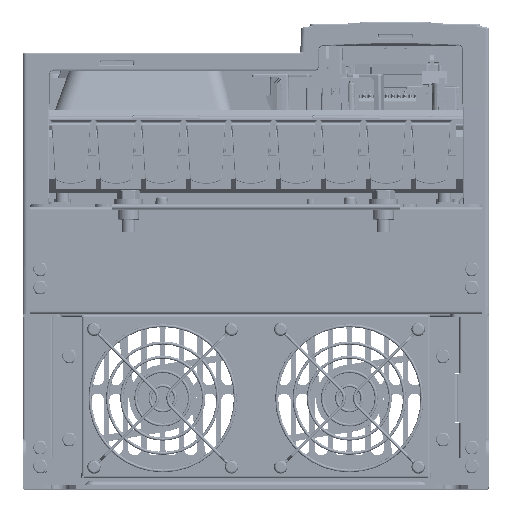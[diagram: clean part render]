
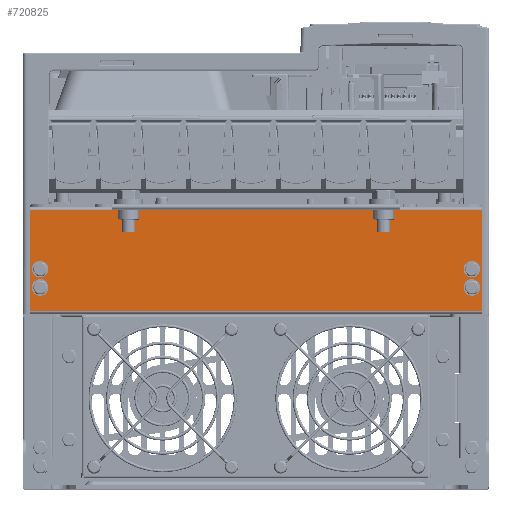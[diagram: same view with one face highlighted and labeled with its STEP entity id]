
A CAD part, top view. The second image highlights one B-rep face of the part: STEP entity #720825.
In plain terms, the highlighted planar face has unit normal (0, 0, 1).
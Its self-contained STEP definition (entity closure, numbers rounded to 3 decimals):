
#713708=DIRECTION('',(0.,-1.,0.));
#713709=VECTOR('',#713708,60.9);
#713710=CARTESIAN_POINT('',(-135.4,167.4,0.));
#713711=LINE('',#713710,#713709);
#714138=DIRECTION('',(1.,0.,0.));
#714139=VECTOR('',#714138,270.8);
#714140=CARTESIAN_POINT('',(-135.4,106.5,0.));
#714141=LINE('',#714140,#714139);
#714145=DIRECTION('',(0.,-1.,0.));
#714146=VECTOR('',#714145,60.9);
#714147=CARTESIAN_POINT('',(135.4,167.4,0.));
#714148=LINE('',#714147,#714146);
#714152=CARTESIAN_POINT('',(-129.5,120.7,0.));
#714153=DIRECTION('',(0.,0.,1.));
#714154=DIRECTION('',(1.,0.,0.));
#714155=AXIS2_PLACEMENT_3D('',#714152,#714153,#714154);
#714160=CARTESIAN_POINT('',(-129.5,120.7,0.));
#714161=DIRECTION('',(0.,0.,1.));
#714162=DIRECTION('',(-1.,0.,0.));
#714163=AXIS2_PLACEMENT_3D('',#714160,#714161,#714162);
#714168=CARTESIAN_POINT('',(129.5,131.7,0.));
#714169=DIRECTION('',(0.,0.,1.));
#714170=DIRECTION('',(1.,0.,0.));
#714171=AXIS2_PLACEMENT_3D('',#714168,#714169,#714170);
#714176=CARTESIAN_POINT('',(129.5,131.7,0.));
#714177=DIRECTION('',(0.,0.,1.));
#714178=DIRECTION('',(-1.,0.,0.));
#714179=AXIS2_PLACEMENT_3D('',#714176,#714177,#714178);
#714184=CARTESIAN_POINT('',(129.5,120.7,0.));
#714185=DIRECTION('',(0.,0.,1.));
#714186=DIRECTION('',(1.,0.,0.));
#714187=AXIS2_PLACEMENT_3D('',#714184,#714185,#714186);
#714192=CARTESIAN_POINT('',(129.5,120.7,0.));
#714193=DIRECTION('',(0.,0.,1.));
#714194=DIRECTION('',(-1.,0.,0.));
#714195=AXIS2_PLACEMENT_3D('',#714192,#714193,#714194);
#714200=CARTESIAN_POINT('',(-129.5,131.7,0.));
#714201=DIRECTION('',(0.,0.,1.));
#714202=DIRECTION('',(1.,0.,0.));
#714203=AXIS2_PLACEMENT_3D('',#714200,#714201,#714202);
#714208=CARTESIAN_POINT('',(-129.5,131.7,0.));
#714209=DIRECTION('',(0.,0.,1.));
#714210=DIRECTION('',(-1.,0.,0.));
#714211=AXIS2_PLACEMENT_3D('',#714208,#714209,#714210);
#714216=DIRECTION('',(-1.,0.,0.));
#714217=VECTOR('',#714216,270.8);
#714218=CARTESIAN_POINT('',(135.4,167.4,0.));
#714219=LINE('',#714218,#714217);
#717938=CARTESIAN_POINT('',(-135.4,106.5,0.));
#717939=VERTEX_POINT('',#717938);
#717941=CARTESIAN_POINT('',(-135.4,167.4,0.));
#717943=VERTEX_POINT('',#717941);
#718038=CARTESIAN_POINT('',(135.4,106.5,0.));
#718039=VERTEX_POINT('',#718038);
#718040=CARTESIAN_POINT('',(135.4,167.4,0.));
#718041=VERTEX_POINT('',#718040);
#718042=CARTESIAN_POINT('',(-127.1,120.7,0.));
#718043=CARTESIAN_POINT('',(-131.9,120.7,0.));
#718044=VERTEX_POINT('',#718042);
#718045=VERTEX_POINT('',#718043);
#718046=CARTESIAN_POINT('',(131.9,131.7,0.));
#718047=CARTESIAN_POINT('',(127.1,131.7,0.));
#718048=VERTEX_POINT('',#718046);
#718049=VERTEX_POINT('',#718047);
#718050=CARTESIAN_POINT('',(131.9,120.7,0.));
#718051=CARTESIAN_POINT('',(127.1,120.7,0.));
#718052=VERTEX_POINT('',#718050);
#718053=VERTEX_POINT('',#718051);
#718054=CARTESIAN_POINT('',(-127.1,131.7,0.));
#718055=CARTESIAN_POINT('',(-131.9,131.7,0.));
#718056=VERTEX_POINT('',#718054);
#718057=VERTEX_POINT('',#718055);
#720789=CARTESIAN_POINT('',(135.4,167.4,0.));
#720790=DIRECTION('',(0.,0.,1.));
#720791=DIRECTION('',(0.,-1.,0.));
#720792=AXIS2_PLACEMENT_3D('',#720789,#720790,#720791);
#720793=PLANE('',#720792);
#720794=ORIENTED_EDGE('',*,*,#720537,.F.);
#720796=ORIENTED_EDGE('',*,*,#720795,.F.);
#720797=ORIENTED_EDGE('',*,*,#720756,.T.);
#720798=ORIENTED_EDGE('',*,*,#720783,.F.);
#720799=EDGE_LOOP('',(#720794,#720796,#720797,#720798));
#720800=FACE_OUTER_BOUND('',#720799,.F.);
#720802=ORIENTED_EDGE('',*,*,#720801,.T.);
#720804=ORIENTED_EDGE('',*,*,#720803,.T.);
#720805=EDGE_LOOP('',(#720802,#720804));
#720806=FACE_BOUND('',#720805,.F.);
#720808=ORIENTED_EDGE('',*,*,#720807,.T.);
#720810=ORIENTED_EDGE('',*,*,#720809,.T.);
#720811=EDGE_LOOP('',(#720808,#720810));
#720812=FACE_BOUND('',#720811,.F.);
#720814=ORIENTED_EDGE('',*,*,#720813,.T.);
#720816=ORIENTED_EDGE('',*,*,#720815,.T.);
#720817=EDGE_LOOP('',(#720814,#720816));
#720818=FACE_BOUND('',#720817,.F.);
#720820=ORIENTED_EDGE('',*,*,#720819,.T.);
#720822=ORIENTED_EDGE('',*,*,#720821,.T.);
#720823=EDGE_LOOP('',(#720820,#720822));
#720824=FACE_BOUND('',#720823,.F.);
#714156=CIRCLE('',#714155,2.4);
#714164=CIRCLE('',#714163,2.4);
#714172=CIRCLE('',#714171,2.4);
#714180=CIRCLE('',#714179,2.4);
#714188=CIRCLE('',#714187,2.4);
#714196=CIRCLE('',#714195,2.4);
#714204=CIRCLE('',#714203,2.4);
#714212=CIRCLE('',#714211,2.4);
#720537=EDGE_CURVE('',#717943,#717939,#713711,.T.);
#720756=EDGE_CURVE('',#718041,#718039,#714148,.T.);
#720783=EDGE_CURVE('',#717939,#718039,#714141,.T.);
#720795=EDGE_CURVE('',#718041,#717943,#714219,.T.);
#720801=EDGE_CURVE('',#718044,#718045,#714156,.T.);
#720803=EDGE_CURVE('',#718045,#718044,#714164,.T.);
#720807=EDGE_CURVE('',#718048,#718049,#714172,.T.);
#720809=EDGE_CURVE('',#718049,#718048,#714180,.T.);
#720813=EDGE_CURVE('',#718052,#718053,#714188,.T.);
#720815=EDGE_CURVE('',#718053,#718052,#714196,.T.);
#720819=EDGE_CURVE('',#718056,#718057,#714204,.T.);
#720821=EDGE_CURVE('',#718057,#718056,#714212,.T.);
#720825=ADVANCED_FACE('',(#720800,#720806,#720812,#720818,#720824),#720793,.T.);
